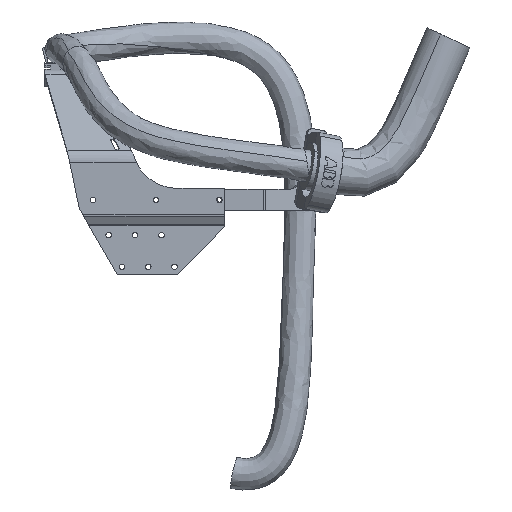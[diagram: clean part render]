
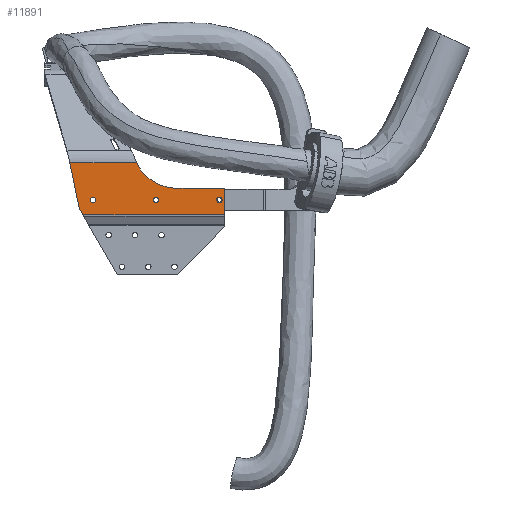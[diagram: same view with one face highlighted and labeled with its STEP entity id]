
A CAD part, front view. The second image highlights one B-rep face of the part: STEP entity #11891.
In plain terms, the highlighted planar face has unit normal (0, -1, 0).
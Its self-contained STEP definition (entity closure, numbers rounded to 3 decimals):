
#25 = VERTEX_POINT ( 'NONE', #3638 ) ;
#119 = CIRCLE ( 'NONE', #15861, 5.25 ) ;
#166 = ORIENTED_EDGE ( 'NONE', *, *, #16072, .T. ) ;
#637 = CARTESIAN_POINT ( 'NONE',  ( -119., -470., 627. ) ) ;
#740 = DIRECTION ( 'NONE',  ( 0., 1., 0. ) ) ;
#927 = LINE ( 'NONE', #3537, #1367 ) ;
#1196 = FACE_OUTER_BOUND ( 'NONE', #3521, .T. ) ;
#1367 = VECTOR ( 'NONE', #11648, 1000. ) ;
#1769 = DIRECTION ( 'NONE',  ( 0., -1., 0. ) ) ;
#2073 = DIRECTION ( 'NONE',  ( 0., 0., -1. ) ) ;
#2231 = DIRECTION ( 'NONE',  ( 0., 1., 0. ) ) ;
#2373 = VERTEX_POINT ( 'NONE', #9302 ) ;
#2535 = ORIENTED_EDGE ( 'NONE', *, *, #8551, .T. ) ;
#2581 = CARTESIAN_POINT ( 'NONE',  ( -199.593, -470., 649. ) ) ;
#2903 = CARTESIAN_POINT ( 'NONE',  ( -199.593, -470., 649. ) ) ;
#3228 = CIRCLE ( 'NONE', #12223, 5.25 ) ;
#3242 = CIRCLE ( 'NONE', #16187, 5.25 ) ;
#3258 = LINE ( 'NONE', #2903, #14006 ) ;
#3401 = CARTESIAN_POINT ( 'NONE',  ( -119., -470., 621.75 ) ) ;
#3521 = EDGE_LOOP ( 'NONE', ( #13086, #15706, #4735, #9643, #6315, #7125, #16431 ) ) ;
#3537 = CARTESIAN_POINT ( 'NONE',  ( -384.865, -470., 610.063 ) ) ;
#3551 = VERTEX_POINT ( 'NONE', #8045 ) ;
#3638 = CARTESIAN_POINT ( 'NONE',  ( -109., -470., 598.417 ) ) ;
#3923 = DIRECTION ( 'NONE',  ( 1., 0., 0. ) ) ;
#3931 = CARTESIAN_POINT ( 'NONE',  ( -359., -470., 621.75 ) ) ;
#4258 = DIRECTION ( 'NONE',  ( 0., 1., 0. ) ) ;
#4735 = ORIENTED_EDGE ( 'NONE', *, *, #6587, .T. ) ;
#4897 = DIRECTION ( 'NONE',  ( 0., 1., 0. ) ) ;
#4964 = FACE_BOUND ( 'NONE', #6440, .T. ) ;
#5558 = VERTEX_POINT ( 'NONE', #6922 ) ;
#5668 = AXIS2_PLACEMENT_3D ( 'NONE', #12367, #4258, #13680 ) ;
#5695 = AXIS2_PLACEMENT_3D ( 'NONE', #10385, #2231, #11763 ) ;
#5712 = VERTEX_POINT ( 'NONE', #12471 ) ;
#5833 = VECTOR ( 'NONE', #3923, 1000. ) ;
#5864 = CARTESIAN_POINT ( 'NONE',  ( -109., -470., 649. ) ) ;
#5917 = EDGE_CURVE ( 'NONE', #2373, #11529, #927, .T. ) ;
#6095 = DIRECTION ( 'NONE',  ( 0., 0., 1. ) ) ;
#6291 = EDGE_CURVE ( 'NONE', #5558, #17205, #7008, .T. ) ;
#6315 = ORIENTED_EDGE ( 'NONE', *, *, #8756, .T. ) ;
#6344 = CARTESIAN_POINT ( 'NONE',  ( -239., -470., 627. ) ) ;
#6440 = EDGE_LOOP ( 'NONE', ( #166, #15525 ) ) ;
#6560 = CARTESIAN_POINT ( 'NONE',  ( -239., -470., 621.75 ) ) ;
#6587 = EDGE_CURVE ( 'NONE', #5558, #2373, #11201, .T. ) ;
#6632 = CIRCLE ( 'NONE', #5668, 5.25 ) ;
#6774 = CARTESIAN_POINT ( 'NONE',  ( -359., -470., 632.25 ) ) ;
#6911 = CARTESIAN_POINT ( 'NONE',  ( -402.935, -470., 697.434 ) ) ;
#6922 = CARTESIAN_POINT ( 'NONE',  ( -402.935, -470., 697.434 ) ) ;
#7008 = LINE ( 'NONE', #7834, #7883 ) ;
#7125 = ORIENTED_EDGE ( 'NONE', *, *, #8474, .T. ) ;
#7228 = PLANE ( 'NONE',  #17503 ) ;
#7662 = EDGE_CURVE ( 'NONE', #11842, #12499, #3258, .T. ) ;
#7692 = CARTESIAN_POINT ( 'NONE',  ( -119., -470., 627. ) ) ;
#7704 = DIRECTION ( 'NONE',  ( 0., 0., -1. ) ) ;
#7834 = CARTESIAN_POINT ( 'NONE',  ( -205.388, -470., 697.434 ) ) ;
#7871 = EDGE_CURVE ( 'NONE', #12499, #17205, #16263, .T. ) ;
#7883 = VECTOR ( 'NONE', #9383, 1000. ) ;
#8045 = CARTESIAN_POINT ( 'NONE',  ( -239., -470., 632.25 ) ) ;
#8474 = EDGE_CURVE ( 'NONE', #25, #11842, #11530, .T. ) ;
#8523 = EDGE_CURVE ( 'NONE', #5712, #12003, #119, .T. ) ;
#8551 = EDGE_CURVE ( 'NONE', #3551, #8690, #10664, .T. ) ;
#8563 = FACE_BOUND ( 'NONE', #12261, .T. ) ;
#8690 = VERTEX_POINT ( 'NONE', #6560 ) ;
#8756 = EDGE_CURVE ( 'NONE', #11529, #25, #9809, .T. ) ;
#9017 = CARTESIAN_POINT ( 'NONE',  ( -359., -470., 627. ) ) ;
#9035 = DIRECTION ( 'NONE',  ( 0., 0., -1. ) ) ;
#9109 = CARTESIAN_POINT ( 'NONE',  ( -276.325, -470., 697.434 ) ) ;
#9302 = CARTESIAN_POINT ( 'NONE',  ( -384.865, -470., 610.063 ) ) ;
#9383 = DIRECTION ( 'NONE',  ( 1., 0., 0. ) ) ;
#9643 = ORIENTED_EDGE ( 'NONE', *, *, #5917, .T. ) ;
#9645 = EDGE_CURVE ( 'NONE', #10489, #12430, #3242, .T. ) ;
#9809 = LINE ( 'NONE', #10656, #5833 ) ;
#9947 = CARTESIAN_POINT ( 'NONE',  ( -109., -470., 731.419 ) ) ;
#9956 = CARTESIAN_POINT ( 'NONE',  ( -199.593, -470., 731.419 ) ) ;
#10250 = DIRECTION ( 'NONE',  ( 0., 1., 0. ) ) ;
#10346 = DIRECTION ( 'NONE',  ( 0., 0., -1. ) ) ;
#10385 = CARTESIAN_POINT ( 'NONE',  ( -199.593, -470., 734. ) ) ;
#10489 = VERTEX_POINT ( 'NONE', #6774 ) ;
#10656 = CARTESIAN_POINT ( 'NONE',  ( -199.593, -470., 598.417 ) ) ;
#10664 = CIRCLE ( 'NONE', #11443, 5.25 ) ;
#10852 = CARTESIAN_POINT ( 'NONE',  ( -378.142, -470., 598.417 ) ) ;
#11076 = VECTOR ( 'NONE', #6095, 1000. ) ;
#11201 = LINE ( 'NONE', #6911, #15962 ) ;
#11326 = DIRECTION ( 'NONE',  ( 0., 0., -1. ) ) ;
#11443 = AXIS2_PLACEMENT_3D ( 'NONE', #12997, #4897, #14266 ) ;
#11506 = ORIENTED_EDGE ( 'NONE', *, *, #13693, .T. ) ;
#11529 = VERTEX_POINT ( 'NONE', #10852 ) ;
#11530 = LINE ( 'NONE', #9947, #11076 ) ;
#11648 = DIRECTION ( 'NONE',  ( 0.5, 0., -0.866 ) ) ;
#11763 = DIRECTION ( 'NONE',  ( 0., 0., 1. ) ) ;
#11842 = VERTEX_POINT ( 'NONE', #5864 ) ;
#11891 = ADVANCED_FACE ( 'NONE', ( #1196, #4964, #8563, #11897 ), #7228, .T. ) ;
#11897 = FACE_BOUND ( 'NONE', #12988, .T. ) ;
#12003 = VERTEX_POINT ( 'NONE', #3401 ) ;
#12126 = EDGE_CURVE ( 'NONE', #8690, #3551, #3228, .T. ) ;
#12223 = AXIS2_PLACEMENT_3D ( 'NONE', #6344, #15655, #7704 ) ;
#12261 = EDGE_LOOP ( 'NONE', ( #14349, #2535 ) ) ;
#12367 = CARTESIAN_POINT ( 'NONE',  ( -359., -470., 627. ) ) ;
#12430 = VERTEX_POINT ( 'NONE', #3931 ) ;
#12471 = CARTESIAN_POINT ( 'NONE',  ( -119., -470., 632.25 ) ) ;
#12499 = VERTEX_POINT ( 'NONE', #2581 ) ;
#12966 = AXIS2_PLACEMENT_3D ( 'NONE', #7692, #16970, #9035 ) ;
#12988 = EDGE_LOOP ( 'NONE', ( #11506, #16276 ) ) ;
#12997 = CARTESIAN_POINT ( 'NONE',  ( -239., -470., 627. ) ) ;
#13086 = ORIENTED_EDGE ( 'NONE', *, *, #7871, .T. ) ;
#13680 = DIRECTION ( 'NONE',  ( 0., 0., -1. ) ) ;
#13693 = EDGE_CURVE ( 'NONE', #12430, #10489, #6632, .T. ) ;
#14006 = VECTOR ( 'NONE', #15308, 1000. ) ;
#14266 = DIRECTION ( 'NONE',  ( 0., 0., -1. ) ) ;
#14349 = ORIENTED_EDGE ( 'NONE', *, *, #12126, .T. ) ;
#15308 = DIRECTION ( 'NONE',  ( -1., 0., 0. ) ) ;
#15525 = ORIENTED_EDGE ( 'NONE', *, *, #8523, .T. ) ;
#15655 = DIRECTION ( 'NONE',  ( 0., 1., 0. ) ) ;
#15706 = ORIENTED_EDGE ( 'NONE', *, *, #6291, .F. ) ;
#15861 = AXIS2_PLACEMENT_3D ( 'NONE', #637, #10250, #2073 ) ;
#15962 = VECTOR ( 'NONE', #16230, 1000. ) ;
#16072 = EDGE_CURVE ( 'NONE', #12003, #5712, #16432, .T. ) ;
#16187 = AXIS2_PLACEMENT_3D ( 'NONE', #9017, #740, #10346 ) ;
#16230 = DIRECTION ( 'NONE',  ( 0.203, 0., -0.979 ) ) ;
#16263 = CIRCLE ( 'NONE', #5695, 85. ) ;
#16276 = ORIENTED_EDGE ( 'NONE', *, *, #9645, .T. ) ;
#16431 = ORIENTED_EDGE ( 'NONE', *, *, #7662, .T. ) ;
#16432 = CIRCLE ( 'NONE', #12966, 5.25 ) ;
#16970 = DIRECTION ( 'NONE',  ( 0., 1., 0. ) ) ;
#17205 = VERTEX_POINT ( 'NONE', #9109 ) ;
#17503 = AXIS2_PLACEMENT_3D ( 'NONE', #9956, #1769, #11326 ) ;
